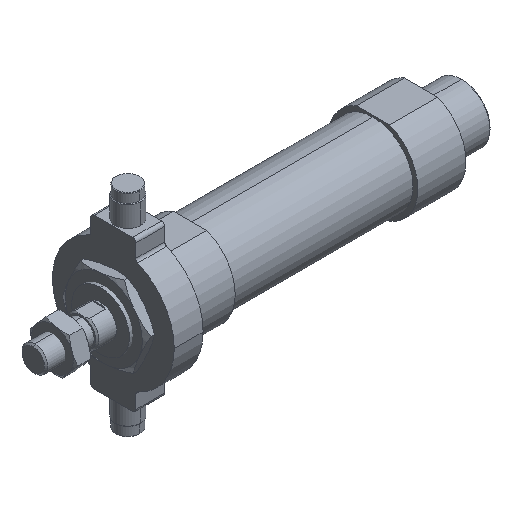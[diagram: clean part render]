
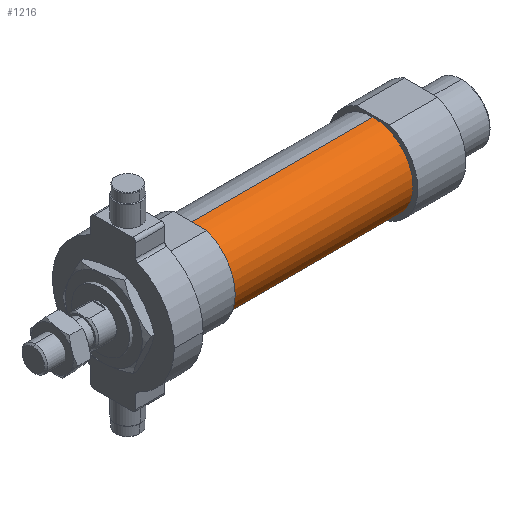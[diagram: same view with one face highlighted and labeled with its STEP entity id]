
A CAD part, isometric view. The second image highlights one B-rep face of the part: STEP entity #1216.
In plain terms, the highlighted cylindrical face has radius 12.5 mm (diameter 25 mm), a partial arc.
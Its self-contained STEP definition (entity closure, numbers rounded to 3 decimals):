
#138 = CARTESIAN_POINT ( 'NONE',  ( 49., 0., 0. ) ) ;
#183 = CARTESIAN_POINT ( 'NONE',  ( -6.469, 0., 0. ) ) ;
#257 = CARTESIAN_POINT ( 'NONE',  ( 106., 0., 0. ) ) ;
#288 = EDGE_CURVE ( 'NONE', #1711, #2051, #3664, .T. ) ;
#292 = LINE ( 'NONE', #2271, #3318 ) ;
#354 = CARTESIAN_POINT ( 'NONE',  ( 49., 0., -12.5 ) ) ;
#365 = CARTESIAN_POINT ( 'NONE',  ( 106., 0., -12.5 ) ) ;
#376 = CARTESIAN_POINT ( 'NONE',  ( -6.469, 0., 12.5 ) ) ;
#588 = EDGE_LOOP ( 'NONE', ( #1482, #2469, #3438, #3706 ) ) ;
#1018 = VERTEX_POINT ( 'NONE', #365 ) ;
#1021 = EDGE_CURVE ( 'NONE', #3525, #2051, #3458, .T. ) ;
#1174 = CARTESIAN_POINT ( 'NONE',  ( 49., 0., 12.5 ) ) ;
#1216 = ADVANCED_FACE ( 'NONE', ( #2972 ), #1713, .T. ) ;
#1335 = DIRECTION ( 'NONE',  ( -1., 0., 0. ) ) ;
#1442 = DIRECTION ( 'NONE',  ( -1., 0., 0. ) ) ;
#1482 = ORIENTED_EDGE ( 'NONE', *, *, #1608, .F. ) ;
#1504 = DIRECTION ( 'NONE',  ( 0., 0., 1. ) ) ;
#1608 = EDGE_CURVE ( 'NONE', #1018, #3525, #292, .T. ) ;
#1711 = VERTEX_POINT ( 'NONE', #4189 ) ;
#1713 = CYLINDRICAL_SURFACE ( 'NONE', #3730, 12.5 ) ;
#1857 = DIRECTION ( 'NONE',  ( 0., 0., 1. ) ) ;
#2051 = VERTEX_POINT ( 'NONE', #1174 ) ;
#2101 = VECTOR ( 'NONE', #1442, 1000. ) ;
#2271 = CARTESIAN_POINT ( 'NONE',  ( -6.469, 0., -12.5 ) ) ;
#2388 = DIRECTION ( 'NONE',  ( 0., 0., 1. ) ) ;
#2469 = ORIENTED_EDGE ( 'NONE', *, *, #4284, .T. ) ;
#2526 = AXIS2_PLACEMENT_3D ( 'NONE', #257, #1335, #1857 ) ;
#2665 = AXIS2_PLACEMENT_3D ( 'NONE', #138, #3863, #1504 ) ;
#2972 = FACE_OUTER_BOUND ( 'NONE', #588, .T. ) ;
#3318 = VECTOR ( 'NONE', #4304, 1000. ) ;
#3438 = ORIENTED_EDGE ( 'NONE', *, *, #288, .T. ) ;
#3458 = CIRCLE ( 'NONE', #2665, 12.5 ) ;
#3525 = VERTEX_POINT ( 'NONE', #354 ) ;
#3664 = LINE ( 'NONE', #376, #2101 ) ;
#3706 = ORIENTED_EDGE ( 'NONE', *, *, #1021, .F. ) ;
#3730 = AXIS2_PLACEMENT_3D ( 'NONE', #183, #4494, #2388 ) ;
#3863 = DIRECTION ( 'NONE',  ( -1., 0., 0. ) ) ;
#4189 = CARTESIAN_POINT ( 'NONE',  ( 106., 0., 12.5 ) ) ;
#4191 = CIRCLE ( 'NONE', #2526, 12.5 ) ;
#4284 = EDGE_CURVE ( 'NONE', #1018, #1711, #4191, .T. ) ;
#4304 = DIRECTION ( 'NONE',  ( -1., 0., 0. ) ) ;
#4494 = DIRECTION ( 'NONE',  ( -1., 0., 0. ) ) ;
